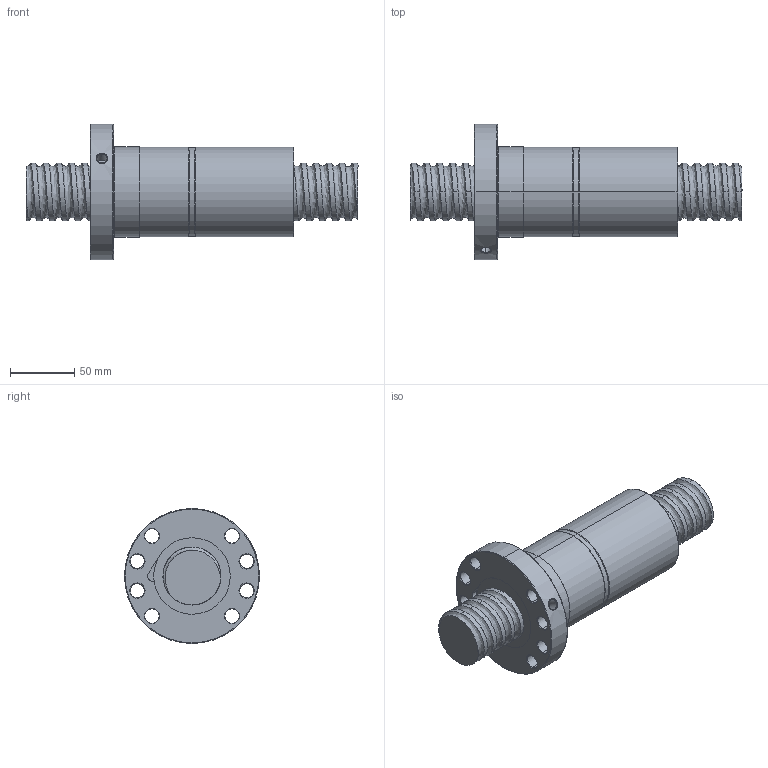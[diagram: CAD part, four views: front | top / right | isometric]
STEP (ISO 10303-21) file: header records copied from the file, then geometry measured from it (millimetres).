
FILE_DESCRIPTION (( 'STEP AP214' ), '1' );
FILE_NAME ('FDDC04510T5-F-A.STEP', '2010-07-07T02:13:05', ( 'XPAUTO' ), ( 'XPAUTO' ), 'SwSTEP 2.0', 'SolidWorks 2007', '' );
FILE_SCHEMA (( 'AUTOMOTIVE_DESIGN' ));
Length unit declared in the file: millimetre
Products named in the file (3): FDDC04510T5-F-A.sldasm-Part-2_預設; FDDC04510T5-F-A; FDDC04510T5-F-A.sldasm-Part-1_預設
Assembly tree (2 placements, depth 2):
  FDDC04510T5-F-A
    FDDC04510T5-F-A.sldasm-Part-2_預設
    FDDC04510T5-F-A.sldasm-Part-1_預設
Bounding box: 258 x 105 x 105 mm (x, y, z)
Volume: 794019.9 mm3; surface area: 123977.5 mm2
Topology: 2 solids, 2 shells, 161 faces, 405 edges, 253 vertices
Faces by surface type: cylinder 98, cone 32, plane 16, torus 10, bspline 5
Entity records: 47420 total; most frequent: CARTESIAN_POINT 43596, ORIENTED_EDGE 810, DIRECTION 741, EDGE_CURVE 405, AXIS2_PLACEMENT_3D 302, VERTEX_POINT 253, EDGE_LOOP 186, ADVANCED_FACE 161
